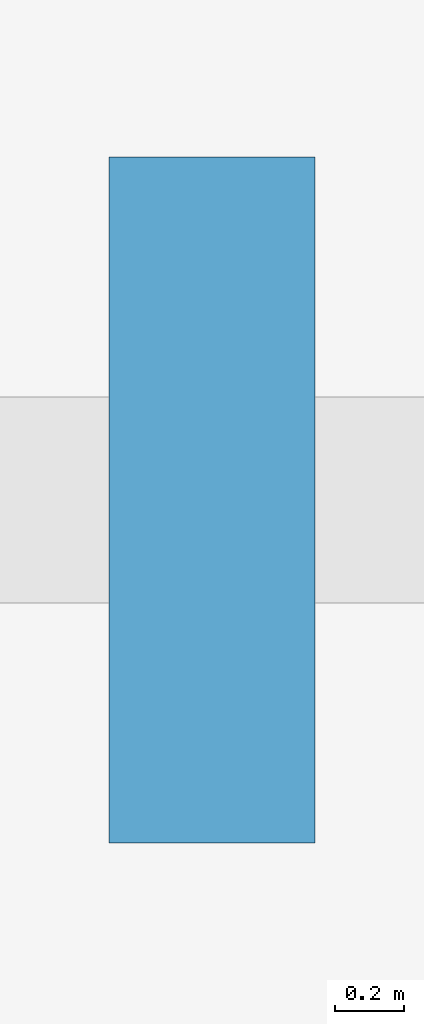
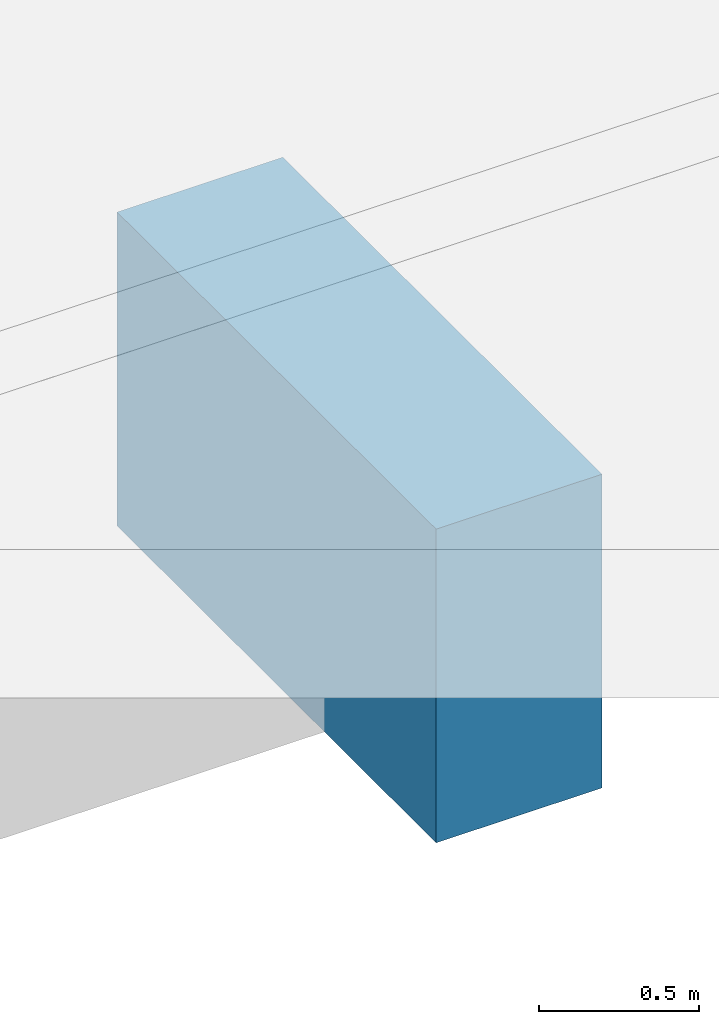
# One storey, part 10 of 12: 1 slab.
"""IFC2X3 building model written with IfcOpenShell, lengths in millimetres."""

from ifc_helpers import new_model, entity, si_unit, converted_unit, derived_unit, direction, frame, frame_2d, origin, place, context, subcontext, project, spatial, rectangle, extrude, material, type_object, element, save


model = new_model("IFC2X3")

# Units and contexts
model_context = context("Model", 3, precision=0.01, world=origin(), true_north=direction((6.123031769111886e-17, 1.0)))
body_context = subcontext(model_context, "Body", "Model", "MODEL_VIEW")
ifc_project = project(units=[si_unit("LENGTHUNIT", "METRE", prefix="MILLI"), si_unit("AREAUNIT", "SQUARE_METRE"), si_unit("VOLUMEUNIT", "CUBIC_METRE"), converted_unit("PLANEANGLEUNIT", "DEGREE", entity("IfcPlaneAngleMeasure", 0.017453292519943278), si_unit("PLANEANGLEUNIT", "RADIAN"), dimensions=[0, 0, 0, 0, 0, 0, 0]), si_unit("MASSUNIT", "GRAM", prefix="KILO"), derived_unit("MASSDENSITYUNIT", [(si_unit("MASSUNIT", "GRAM", prefix="KILO"), 1), (si_unit("LENGTHUNIT", "METRE"), -3)]), derived_unit("IONCONCENTRATIONUNIT", [(si_unit("MASSUNIT", "GRAM", prefix="KILO"), 1), (si_unit("LENGTHUNIT", "METRE"), -3)]), derived_unit("MOMENTOFINERTIAUNIT", [(si_unit("LENGTHUNIT", "METRE"), 4)]), si_unit("TIMEUNIT", "SECOND"), si_unit("FREQUENCYUNIT", "HERTZ"), si_unit("THERMODYNAMICTEMPERATUREUNIT", "DEGREE_CELSIUS"), derived_unit("THERMALTRANSMITTANCEUNIT", [(si_unit("MASSUNIT", "GRAM", prefix="KILO"), 1), (si_unit("THERMODYNAMICTEMPERATUREUNIT", "KELVIN"), -1), (si_unit("TIMEUNIT", "SECOND"), -3)]), derived_unit("THERMALCONDUCTANCEUNIT", [(si_unit("MASSUNIT", "GRAM", prefix="KILO"), 1), (si_unit("THERMODYNAMICTEMPERATUREUNIT", "KELVIN"), -1), (si_unit("TIMEUNIT", "SECOND"), -3), (si_unit("LENGTHUNIT", "METRE"), 1)]), derived_unit("VOLUMETRICFLOWRATEUNIT", [(si_unit("LENGTHUNIT", "METRE", prefix="DECI"), 3), (si_unit("TIMEUNIT", "SECOND"), -1)]), derived_unit("MASSFLOWRATEUNIT", [(si_unit("MASSUNIT", "GRAM", prefix="KILO"), 1), (si_unit("TIMEUNIT", "SECOND"), -1)]), derived_unit("ROTATIONALFREQUENCYUNIT", [(si_unit("TIMEUNIT", "SECOND"), -1)]), si_unit("ELECTRICCURRENTUNIT", "AMPERE"), si_unit("ELECTRICVOLTAGEUNIT", "VOLT"), si_unit("POWERUNIT", "WATT"), si_unit("FORCEUNIT", "NEWTON", prefix="KILO"), si_unit("ILLUMINANCEUNIT", "LUX"), si_unit("LUMINOUSFLUXUNIT", "LUMEN"), si_unit("LUMINOUSINTENSITYUNIT", "CANDELA"), si_unit("ENERGYUNIT", "JOULE"), derived_unit("USERDEFINED", [(si_unit("MASSUNIT", "GRAM", prefix="KILO"), -1), (si_unit("LENGTHUNIT", "METRE"), -2), (si_unit("TIMEUNIT", "SECOND"), 3), (si_unit("LUMINOUSFLUXUNIT", "LUMEN"), 1)]), derived_unit("USERDEFINED", [(si_unit("MASSUNIT", "GRAM", prefix="KILO"), 1), (si_unit("TIMEUNIT", "SECOND"), -3), (si_unit("LENGTHUNIT", "METRE"), 3), (si_unit("ELECTRICCURRENTUNIT", "AMPERE"), -2)]), derived_unit("SOUNDPOWERUNIT", [(si_unit("MASSUNIT", "GRAM", prefix="KILO"), 1), (si_unit("TIMEUNIT", "SECOND"), -3), (si_unit("LENGTHUNIT", "METRE"), 2)]), derived_unit("SOUNDPRESSUREUNIT", [(si_unit("MASSUNIT", "GRAM", prefix="KILO"), 1), (si_unit("LENGTHUNIT", "METRE"), -1), (si_unit("TIMEUNIT", "SECOND"), -2)]), derived_unit("LINEARVELOCITYUNIT", [(si_unit("LENGTHUNIT", "METRE"), 1), (si_unit("TIMEUNIT", "SECOND"), -1)]), si_unit("PRESSUREUNIT", "PASCAL"), derived_unit("USERDEFINED", [(si_unit("MASSUNIT", "GRAM", prefix="KILO"), 1), (si_unit("LENGTHUNIT", "METRE"), -2), (si_unit("TIMEUNIT", "SECOND"), -2)]), derived_unit("LINEARFORCEUNIT", [(si_unit("MASSUNIT", "GRAM", prefix="KILO"), 1), (si_unit("TIMEUNIT", "SECOND"), -2)]), derived_unit("PLANARFORCEUNIT", [(si_unit("MASSUNIT", "GRAM", prefix="KILO"), 1), (si_unit("LENGTHUNIT", "METRE"), -1), (si_unit("TIMEUNIT", "SECOND"), -2)]), derived_unit("SPECIFICHEATCAPACITYUNIT", [(si_unit("THERMODYNAMICTEMPERATUREUNIT", "KELVIN"), -1), (si_unit("LENGTHUNIT", "METRE"), 2), (si_unit("TIMEUNIT", "SECOND"), -2)]), derived_unit("HEATFLUXDENSITYUNIT", [(si_unit("MASSUNIT", "GRAM", prefix="KILO"), 1), (si_unit("TIMEUNIT", "SECOND"), -3)]), derived_unit("HEATINGVALUEUNIT", [(si_unit("LENGTHUNIT", "METRE"), 2), (si_unit("TIMEUNIT", "SECOND"), -2)]), derived_unit("VAPORPERMEABILITYUNIT", [(si_unit("LENGTHUNIT", "METRE"), -1), (si_unit("TIMEUNIT", "SECOND"), 1)]), derived_unit("DYNAMICVISCOSITYUNIT", [(si_unit("MASSUNIT", "GRAM", prefix="KILO"), 1), (si_unit("TIMEUNIT", "SECOND"), -1), (si_unit("LENGTHUNIT", "METRE"), -1)]), derived_unit("THERMALEXPANSIONCOEFFICIENTUNIT", [(si_unit("THERMODYNAMICTEMPERATUREUNIT", "KELVIN"), -1)]), derived_unit("MODULUSOFELASTICITYUNIT", [(si_unit("MASSUNIT", "GRAM", prefix="KILO"), 1), (si_unit("LENGTHUNIT", "METRE"), -1), (si_unit("TIMEUNIT", "SECOND"), -2)]), derived_unit("ISOTHERMALMOISTURECAPACITYUNIT", [(si_unit("MASSUNIT", "GRAM", prefix="KILO"), -1), (si_unit("LENGTHUNIT", "METRE"), 3)]), derived_unit("MOISTUREDIFFUSIVITYUNIT", [(si_unit("TIMEUNIT", "SECOND"), -1), (si_unit("LENGTHUNIT", "METRE"), 2)]), derived_unit("MASSPERLENGTHUNIT", [(si_unit("MASSUNIT", "GRAM", prefix="KILO"), 1), (si_unit("LENGTHUNIT", "METRE"), -1)]), derived_unit("THERMALRESISTANCEUNIT", [(si_unit("MASSUNIT", "GRAM", prefix="KILO"), -1), (si_unit("TIMEUNIT", "SECOND"), 3), (si_unit("THERMODYNAMICTEMPERATUREUNIT", "KELVIN"), 1)]), derived_unit("ACCELERATIONUNIT", [(si_unit("LENGTHUNIT", "METRE"), 1), (si_unit("TIMEUNIT", "SECOND"), -2)]), derived_unit("ANGULARVELOCITYUNIT", [(si_unit("TIMEUNIT", "SECOND"), -1), (si_unit("PLANEANGLEUNIT", "RADIAN"), 1)]), derived_unit("LINEARSTIFFNESSUNIT", [(si_unit("MASSUNIT", "GRAM", prefix="KILO"), 1), (si_unit("TIMEUNIT", "SECOND"), -2)]), derived_unit("WARPINGCONSTANTUNIT", [(si_unit("LENGTHUNIT", "METRE"), 6)]), derived_unit("LINEARMOMENTUNIT", [(si_unit("MASSUNIT", "GRAM", prefix="KILO"), 1), (si_unit("LENGTHUNIT", "METRE"), 1), (si_unit("TIMEUNIT", "SECOND"), -2)]), derived_unit("TORQUEUNIT", [(si_unit("MASSUNIT", "GRAM", prefix="KILO"), 1), (si_unit("LENGTHUNIT", "METRE"), 2), (si_unit("TIMEUNIT", "SECOND"), -2)])], contexts=[model_context])

# Site, building, storey
site_placement = place(None, origin())
site = spatial("IfcSite", under=ifc_project, at=site_placement, Name="Default", CompositionType="ELEMENT")
building_placement = place(site_placement, origin())
building = spatial("IfcBuilding", under=site, at=building_placement, CompositionType="ELEMENT")
storey_placement = place(building_placement, origin())
storey = spatial("IfcBuildingStorey", under=building, at=storey_placement, Name="00 begane grond", CompositionType="ELEMENT", Elevation=0.0)

# Slab
ifc_material = material(Name="VRI_beton_ihwg")
slab_type = type_object("IfcSlabType", Name="16_SFO_VRI_beton_poer:600x1200x2000", PredefinedType="BASESLAB", material=ifc_material)
slab_placement = place(storey_placement, origin())
element("IfcSlab", 1, at=slab_placement, inside=storey, type_object=slab_type, Name="16_SFO_VRI_beton_poer:600x1200x2000", ObjectType="16_SFO_VRI_beton_poer:600x1200x2000", PredefinedType="BASESLAB", context=body_context, shape_type="SweptSolid", body=[
    extrude(rectangle(XDim=600.0000000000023, YDim=2000.0, at=frame_2d((4.320099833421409e-12, 4.376943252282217e-12), x_axis=(1.0, 0.0))), frame((56100.0, 30000.0, -1660.0)), (0.0, 0.0, 1.0), 1200.0),
])

save(model, "model.ifc")
